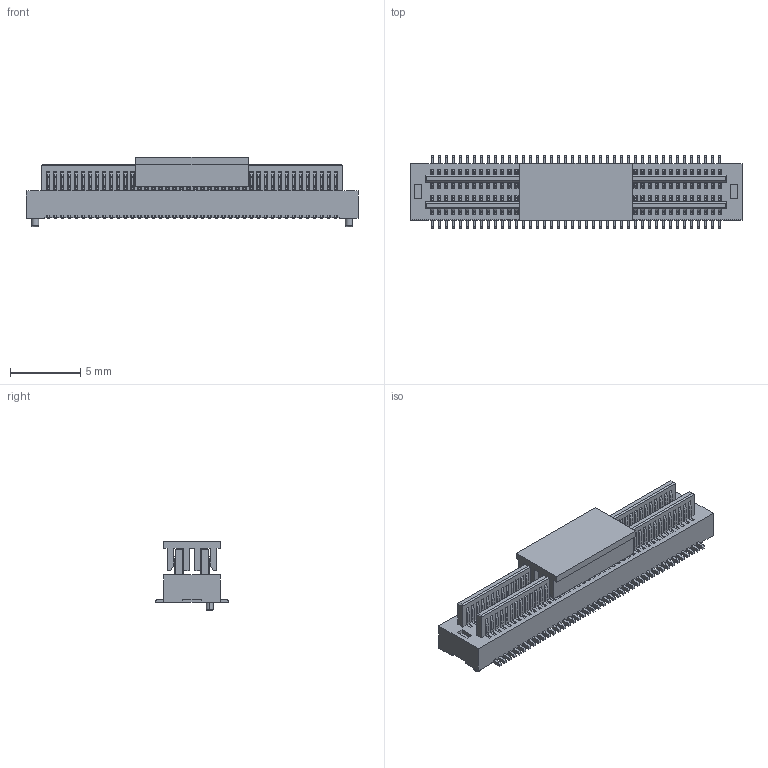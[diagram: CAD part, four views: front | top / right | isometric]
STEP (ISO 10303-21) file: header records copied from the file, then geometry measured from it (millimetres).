
FILE_DESCRIPTION(('CATIA V5 STEP Exchange'),'2;1');
FILE_NAME('F:\黄富鸿\板对板\PBB05\公座\H2.0\编带+盖\HC-PBB05-2-84-M-H2.0-G1-R-P-04（BTB0.5 双槽 公座 立贴 带柱 编带+盖）-HCTL.stp','2025-12-18T01:24:40+00:00',('none'),('none'),'CATIA Version 5 Release 20 GA (IN-10)','CATIA V5 STEP AP203','none');
FILE_SCHEMA(('CONFIG_CONTROL_DESIGN'));
Products named in the file (1): Part2
Bounding box: 23.7 x 5.2 x 4.95 mm (x, y, z)
Volume: 257.7 mm3; surface area: 1980.2 mm2
Topology: 86 solids, 86 shells, 4784 faces, 14646 edges, 9704 vertices
Faces by surface type: plane 3096, cylinder 1684, torus 4
Entity records: 140075 total; most frequent: ORIENTED_EDGE 29292, CARTESIAN_POINT 26004, DIRECTION 15600, EDGE_CURVE 14646, VECTOR 10934, LINE 10934, VERTEX_POINT 9704, EDGE_LOOP 4790
